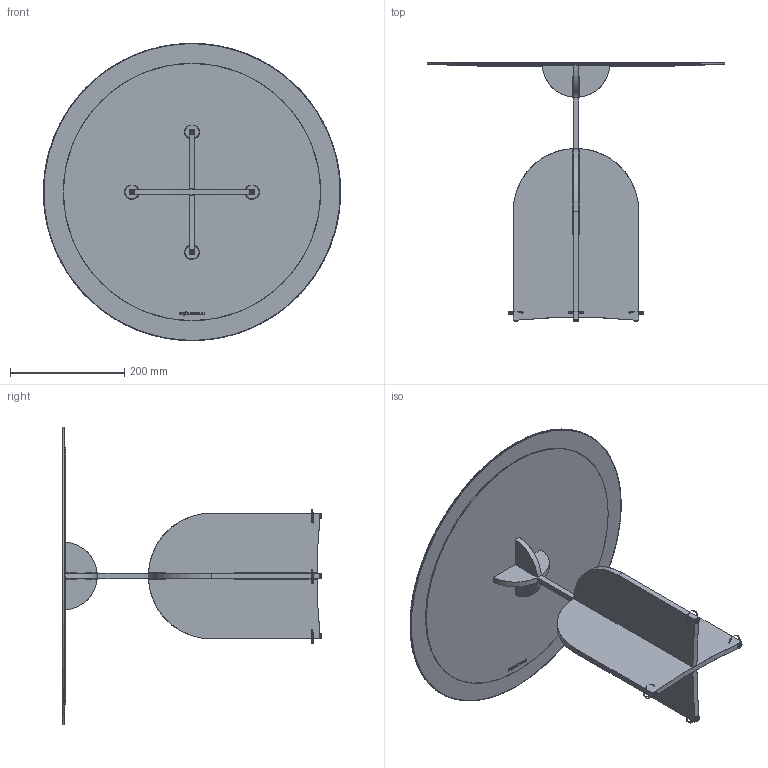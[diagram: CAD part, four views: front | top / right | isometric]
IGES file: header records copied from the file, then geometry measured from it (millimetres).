
Start section: SolidWorks IGES file using analytic representation for surfaces
Global section: file name: \\utenti\Dati Utenti\Tecnico\DC\2D - 3D per sito\3D\DeCastelli-3D-Nicola 45.igs; native system: SolidWorks 2022; preprocessor: SolidWorks 2022; author: Simonep; date: 240729.120332; units: millimetre
Bounding box: 519.9 x 452.5 x 519.92 mm (x, y, z)
Surface area: 871044.8 mm2 (no closed solid volume)
Topology: 0 solids, 0 shells, 163 faces, 2193 edges, 2189 vertices
Faces by surface type: bspline 100, revolution 63
